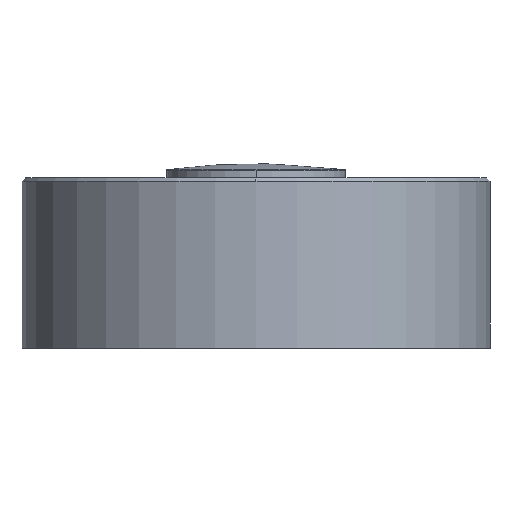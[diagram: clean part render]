
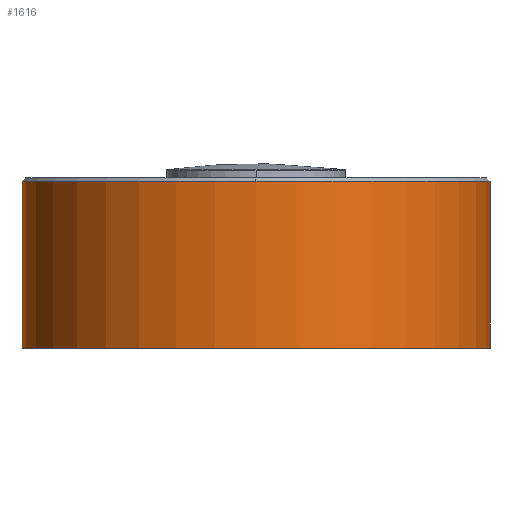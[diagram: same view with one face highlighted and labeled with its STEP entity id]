
A CAD part, left-side view. The second image highlights one B-rep face of the part: STEP entity #1616.
In plain terms, the highlighted cylindrical face has radius 104.75 mm (diameter 209.499 mm), a partial arc.
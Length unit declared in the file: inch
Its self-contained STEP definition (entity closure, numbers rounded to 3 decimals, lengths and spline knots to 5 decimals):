
#602 = ORIENTED_EDGE ( 'NONE', *, *, #6992, .T. ) ;
#615 = ORIENTED_EDGE ( 'NONE', *, *, #2649, .T. ) ;
#645 = ORIENTED_EDGE ( 'NONE', *, *, #4891, .F. ) ;
#653 = EDGE_CURVE ( 'NONE', #5787, #1730, #4701, .T. ) ;
#1057 = EDGE_LOOP ( 'NONE', ( #645, #3664, #2059, #615, #602 ) ) ;
#1616 = ADVANCED_FACE ( 'NONE', ( #2978 ), #2979, .T. ) ;
#1730 = VERTEX_POINT ( 'NONE', #3536 ) ;
#1798 = EDGE_CURVE ( 'NONE', #1730, #6719, #3654, .T. ) ;
#2059 = ORIENTED_EDGE ( 'NONE', *, *, #1798, .T. ) ;
#2649 = EDGE_CURVE ( 'NONE', #6719, #3544, #4214, .T. ) ;
#2978 = FACE_OUTER_BOUND ( 'NONE', #1057, .T. ) ;
#2979 = CYLINDRICAL_SURFACE ( 'NONE', #2980, 4.124 ) ;
#2980 = AXIS2_PLACEMENT_3D ( 'NONE', #2981, #2982, #2983 ) ;
#2981 = CARTESIAN_POINT ( 'NONE',  ( 0., 0., -0.06 ) ) ;
#2982 = DIRECTION ( 'NONE',  ( 0., 0., -1. ) ) ;
#2983 = DIRECTION ( 'NONE',  ( 0., 1., 0. ) ) ;
#3536 = CARTESIAN_POINT ( 'NONE',  ( -4.124, 0., -0.06 ) ) ;
#3544 = VERTEX_POINT ( 'NONE', #4780 ) ;
#3654 = CIRCLE ( 'NONE', #3655, 4.124 ) ;
#3655 = AXIS2_PLACEMENT_3D ( 'NONE', #3656, #3657, #3658 ) ;
#3656 = CARTESIAN_POINT ( 'NONE',  ( 0., 0., -0.06 ) ) ;
#3657 = DIRECTION ( 'NONE',  ( 0., 0., -1. ) ) ;
#3658 = DIRECTION ( 'NONE',  ( 0., 1., 0. ) ) ;
#3664 = ORIENTED_EDGE ( 'NONE', *, *, #653, .T. ) ;
#4214 = LINE ( 'NONE', #4215, #4216 ) ;
#4215 = CARTESIAN_POINT ( 'NONE',  ( 0., 4.124, -0.06 ) ) ;
#4216 = VECTOR ( 'NONE', #4221, 39.37008 ) ;
#4221 = DIRECTION ( 'NONE',  ( 0., 0., -1. ) ) ;
#4675 = VERTEX_POINT ( 'NONE', #5553 ) ;
#4701 = CIRCLE ( 'NONE', #4702, 4.124 ) ;
#4702 = AXIS2_PLACEMENT_3D ( 'NONE', #4703, #4704, #4705 ) ;
#4703 = CARTESIAN_POINT ( 'NONE',  ( 0., 0., -0.06 ) ) ;
#4704 = DIRECTION ( 'NONE',  ( 0., 0., -1. ) ) ;
#4705 = DIRECTION ( 'NONE',  ( 0., 1., 0. ) ) ;
#4780 = CARTESIAN_POINT ( 'NONE',  ( 0., 4.124, -2.999 ) ) ;
#4891 = EDGE_CURVE ( 'NONE', #5787, #4675, #5674, .T. ) ;
#5553 = CARTESIAN_POINT ( 'NONE',  ( 0., -4.124, -2.999 ) ) ;
#5674 = LINE ( 'NONE', #5675, #5676 ) ;
#5675 = CARTESIAN_POINT ( 'NONE',  ( 0., -4.124, -0.06 ) ) ;
#5676 = VECTOR ( 'NONE', #5677, 39.37008 ) ;
#5677 = DIRECTION ( 'NONE',  ( 0., 0., -1. ) ) ;
#5787 = VERTEX_POINT ( 'NONE', #6228 ) ;
#6228 = CARTESIAN_POINT ( 'NONE',  ( 0., -4.124, -0.06 ) ) ;
#6719 = VERTEX_POINT ( 'NONE', #6784 ) ;
#6784 = CARTESIAN_POINT ( 'NONE',  ( 0., 4.124, -0.06 ) ) ;
#6992 = EDGE_CURVE ( 'NONE', #3544, #4675, #7020, .T. ) ;
#7020 = CIRCLE ( 'NONE', #7021, 4.124 ) ;
#7021 = AXIS2_PLACEMENT_3D ( 'NONE', #7022, #7023, #7024 ) ;
#7022 = CARTESIAN_POINT ( 'NONE',  ( 0., 0., -2.999 ) ) ;
#7023 = DIRECTION ( 'NONE',  ( 0., 0., 1. ) ) ;
#7024 = DIRECTION ( 'NONE',  ( 0., 1., 0. ) ) ;
